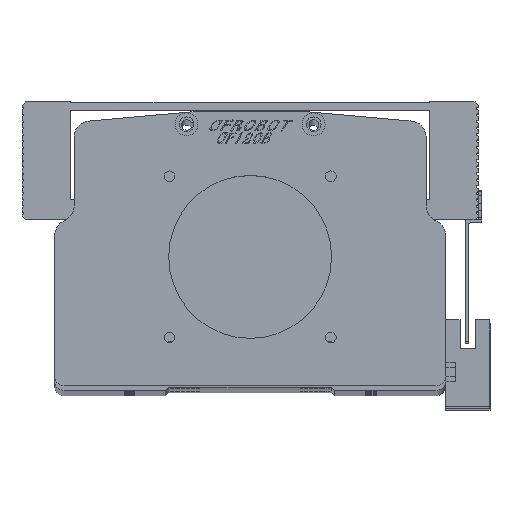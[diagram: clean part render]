
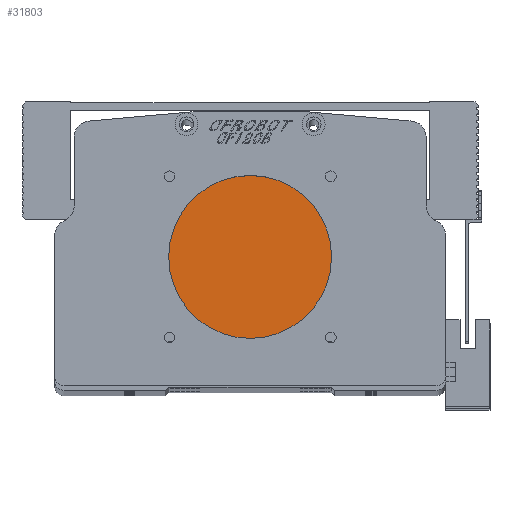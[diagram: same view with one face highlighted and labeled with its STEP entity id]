
A CAD part, top view. The second image highlights one B-rep face of the part: STEP entity #31803.
In plain terms, the highlighted planar face has unit normal (0, 0, 1).
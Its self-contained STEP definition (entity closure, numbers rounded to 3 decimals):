
#7282 = DIRECTION ( 'NONE',  ( 1., 0., 0. ) ) ;
#9007 = AXIS2_PLACEMENT_3D ( 'NONE', #100083, #30268, #111874 ) ;
#16375 = CARTESIAN_POINT ( 'NONE',  ( 39., 26.5, 100. ) ) ;
#28170 = DIRECTION ( 'NONE',  ( 1., 0., 0. ) ) ;
#30268 = DIRECTION ( 'NONE',  ( 0., 0., 1. ) ) ;
#31760 = EDGE_CURVE ( 'NONE', #57945, #94289, #120331, .T. ) ;
#31803 = ADVANCED_FACE ( 'NONE', ( #124007 ), #123684, .T. ) ;
#32534 = AXIS2_PLACEMENT_3D ( 'NONE', #53669, #77064, #7282 ) ;
#53669 = CARTESIAN_POINT ( 'NONE',  ( 0., 0., 100. ) ) ;
#55350 = ORIENTED_EDGE ( 'NONE', *, *, #31760, .T. ) ;
#57945 = VERTEX_POINT ( 'NONE', #140875 ) ;
#58784 = EDGE_CURVE ( 'NONE', #94289, #57945, #75949, .T. ) ;
#75949 = CIRCLE ( 'NONE', #135647, 25. ) ;
#77064 = DIRECTION ( 'NONE',  ( 0., 0., 1. ) ) ;
#94289 = VERTEX_POINT ( 'NONE', #144238 ) ;
#97972 = DIRECTION ( 'NONE',  ( 0., 0., 1. ) ) ;
#100083 = CARTESIAN_POINT ( 'NONE',  ( 39., 26.5, 100. ) ) ;
#100181 = ORIENTED_EDGE ( 'NONE', *, *, #58784, .T. ) ;
#101598 = EDGE_LOOP ( 'NONE', ( #55350, #100181 ) ) ;
#111874 = DIRECTION ( 'NONE',  ( 1., 0., 0. ) ) ;
#120331 = CIRCLE ( 'NONE', #9007, 25. ) ;
#123684 = PLANE ( 'NONE',  #32534 ) ;
#124007 = FACE_OUTER_BOUND ( 'NONE', #101598, .T. ) ;
#135647 = AXIS2_PLACEMENT_3D ( 'NONE', #16375, #97972, #28170 ) ;
#140875 = CARTESIAN_POINT ( 'NONE',  ( 64., 26.5, 100. ) ) ;
#144238 = CARTESIAN_POINT ( 'NONE',  ( 14., 26.5, 100. ) ) ;
